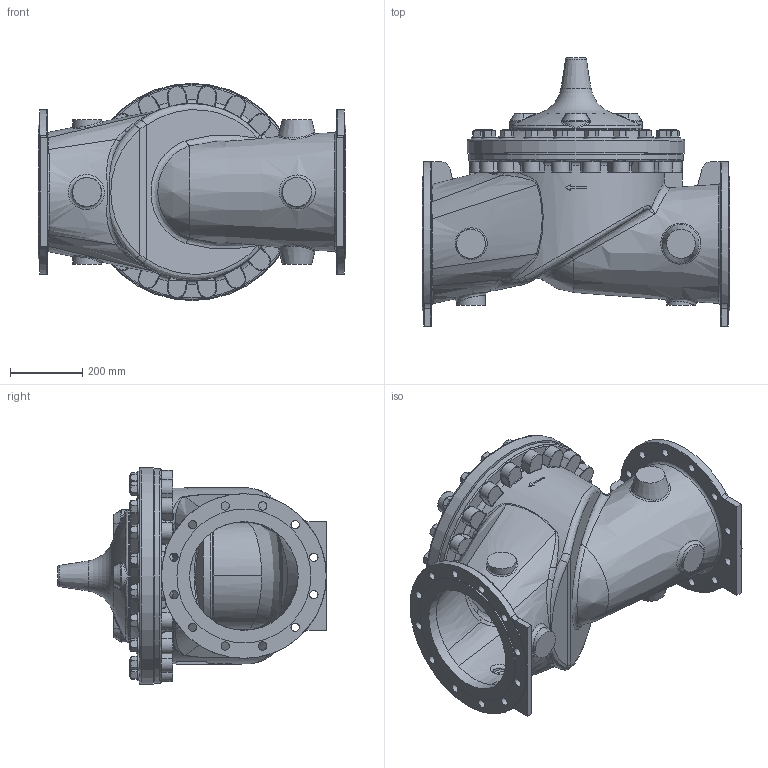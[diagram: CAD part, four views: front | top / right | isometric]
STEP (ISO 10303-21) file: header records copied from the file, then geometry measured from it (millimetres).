
FILE_DESCRIPTION(/* description */ (''),/* implementation_level */ '2;1');
FILE_NAME(/* name */ 'G:\Doc_Liberes\SymbolesCAD\Modeles_3D\FichierSTP\VanneDeBase\NGE300-10RF.stp',/* time_stamp */ '2023-08-18T11:37:42+02:00',/* author */ ('theo'),/* organization */ (''),/* preprocessor_version */ 'ST-DEVELOPER v18.1',/* originating_system */ 'Autodesk Inventor 2022',/* authorisation */ '');
FILE_SCHEMA (('AUTOMOTIVE_DESIGN { 1 0 10303 214 3 1 1 }'));
Products named in the file (1): nge300-10_Simplifier_1
Bounding box: 850 x 741.78 x 599.95 mm (x, y, z)
Volume: 36401138.2 mm3; surface area: 3874898.4 mm2
Topology: 1 solids, 1 shells, 1912 faces, 4727 edges, 2896 vertices
Faces by surface type: plane 571, cone 490, bspline 373, cylinder 307, torus 169, sphere 2
Full cylindrical faces by diameter (mm): 22.05 x40, 23 x24, 44.45 x20, 68.263 x1, 80 x3, 282.5 x1, 300 x2, 324 x1, 330.2 x1, 330.7 x1, 365.252 x1, 370 x2, 455 x2, 580.5 x1, 581.025 x1, 594 x1, 599.948 x1
Entity records: 84371 total; most frequent: CARTESIAN_POINT 42369, ORIENTED_EDGE 9434, DIRECTION 8188, EDGE_CURVE 4717, AXIS2_PLACEMENT_3D 3604, VERTEX_POINT 2896, EDGE_LOOP 2093, CIRCLE 1978
